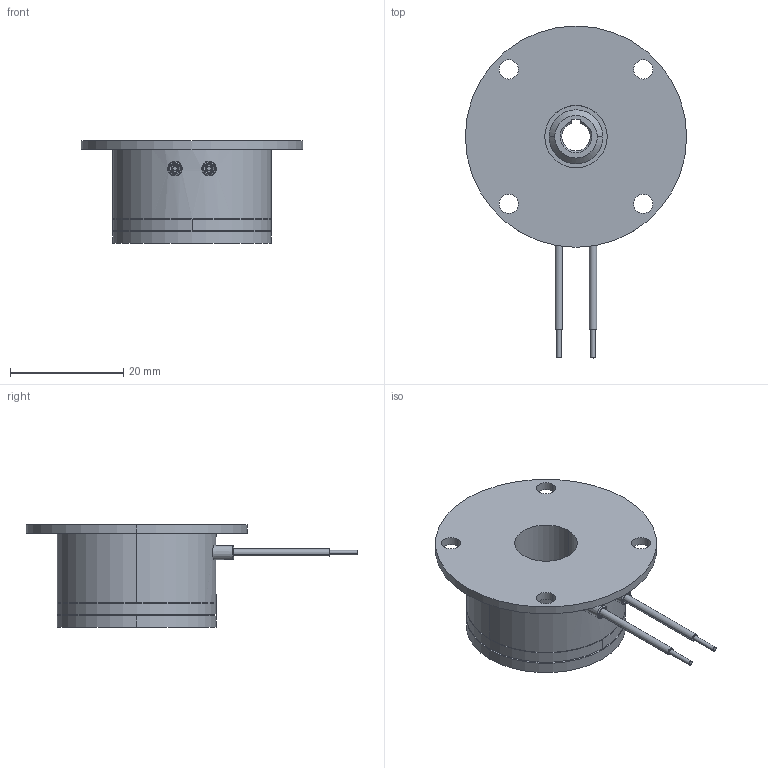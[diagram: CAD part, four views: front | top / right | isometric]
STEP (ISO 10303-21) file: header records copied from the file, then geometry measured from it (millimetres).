
FILE_DESCRIPTION (( 'STEP AP214' ), '1' );
FILE_NAME ('dr_bk_0102-020_mu.STEP', '2021-11-10T09:26:21', ( '' ), ( '' ), 'SwSTEP 2.0', 'SolidWorks 2019', '' );
FILE_SCHEMA (( 'AUTOMOTIVE_DESIGN' ));
Length unit declared in the file: millimetre
Products named in the file (10): 10068721_000; 10068724_000_01.02.331-0062 Nabe; 10068723_000; dr_bk_0102-020_mu; 10068678_000; 10068718_000_Einbaul„nge 1,35mm; 10068720_000; 10068722_000; 10068718_000_Einbaul„nge 1,4mm; 10068719_000
Assembly tree (14 placements, depth 4):
  dr_bk_0102-020_mu
    10068678_000
    10068723_000
      10068724_000_01.02.331-0062 Nabe
      10068718_000_Einbaul„nge 1,4mm  x2
      10068722_000  x2
      10068719_000
        10068720_000
        10068721_000
        10068718_000_Einbaul„nge 1,35mm  x2
        10068722_000  x2
Bounding box: 39 x 58.5 x 18.05 mm (x, y, z)
Volume: 10425.1 mm3; surface area: 8281.1 mm2
Topology: 14 solids, 14 shells, 228 faces, 510 edges, 314 vertices
Faces by surface type: cylinder 115, cone 56, plane 33, torus 16, sphere 8
Entity records: 6211 total; most frequent: DIRECTION 994, CARTESIAN_POINT 977, ORIENTED_EDGE 772, AXIS2_PLACEMENT_3D 429, EDGE_CURVE 386, VERTEX_POINT 242, CIRCLE 238, EDGE_LOOP 224
